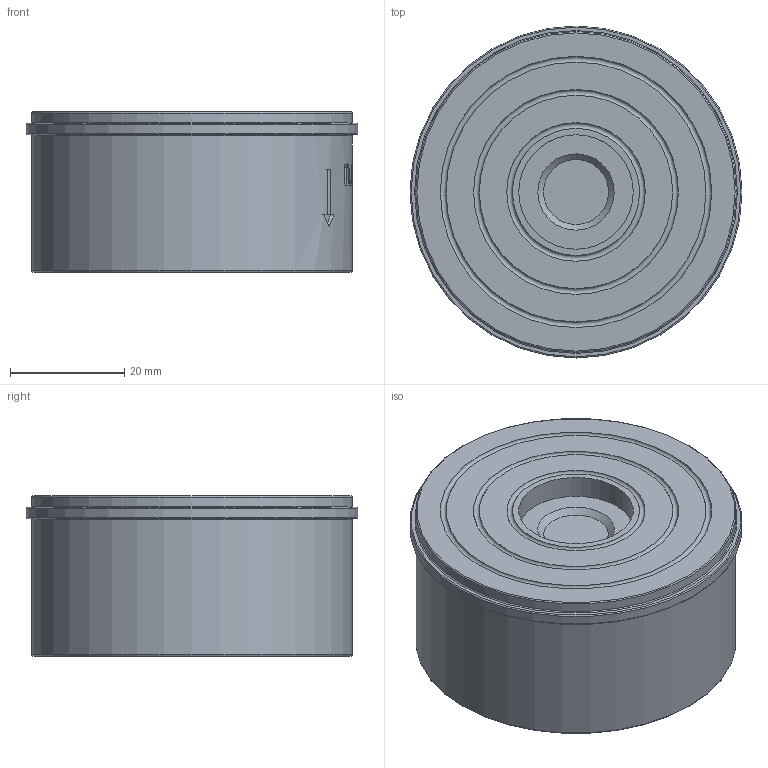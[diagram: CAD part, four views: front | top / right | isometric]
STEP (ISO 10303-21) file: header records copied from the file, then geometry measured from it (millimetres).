
FILE_DESCRIPTION(('STEP AP214'), '1');
FILE_NAME('VCS3232-Fb 孰囡囗 钺疣蝽 DN.ru 捏20 畜40', '', ('UNSPECIFIED'), ('UNSPECIFIED'), 'C3D Converter', 'C3D Toolkit', '');
FILE_SCHEMA(('AUTOMOTIVE_DESIGN { 1 0 10303 214 3 1 1}'));
Length unit declared in the file: millimetre
Products named in the file (1): VCS3232-Fb
Bounding box: 58 x 58 x 28 mm (x, y, z)
Volume: 24103.4 mm3; surface area: 21308.4 mm2
Topology: 2 solids, 2 shells, 139 faces, 334 edges, 220 vertices
Faces by surface type: plane 68, cylinder 30, extrusion 28, torus 11, bspline 1, cone 1
Full cylindrical faces by diameter (mm): 6.667 x1, 6.867 x1, 20 x1, 24 x1, 28 x1, 35.98 x1, 40 x1, 43.98 x1, 44 x1, 51 x1, 56 x2, 58 x1
Entity records: 8651 total; most frequent: CARTESIAN_POINT 4770, ORIENTED_EDGE 616, DIRECTION 590, EDGE_CURVE 308, VERTEX_POINT 220, AXIS2_PLACEMENT_3D 219, EDGE_LOOP 196, VECTOR 152
